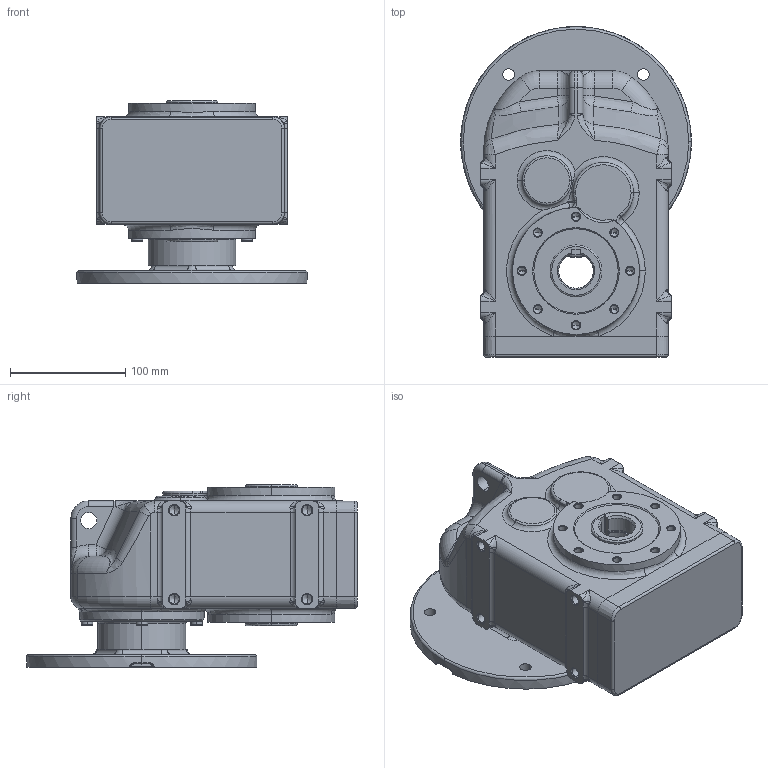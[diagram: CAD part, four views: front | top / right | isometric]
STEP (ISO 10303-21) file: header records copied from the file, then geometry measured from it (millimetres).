
FILE_DESCRIPTION (( 'STEP AP214' ), '1' );
FILE_NAME ('tnc13-f165-ap80.STEP', '2009-09-25T08:12:00', ( '' ), ( '' ), 'SwSTEP 2.0', 'SolidWorks 2003240', '' );
FILE_SCHEMA (( 'AUTOMOTIVE_DESIGN' ));
Length unit declared in the file: millimetre
Products named in the file (4): pøíruba d55 MRT60a_pøíruba 130-165-200; D6912_Šroub DIN 6912 - M6x20; Skøíò TNC1_Skøíò TNC13 AP80; tnc13-f165-ap80
Assembly tree (8 placements, depth 2):
  tnc13-f165-ap80
    D6912_Šroub DIN 6912 - M6x20  x6
    pøíruba d55 MRT60a_pøíruba 130-165-200
    Skøíò TNC1_Skøíò TNC13 AP80
Bounding box: 199.74 x 286.18 x 158 mm (x, y, z)
Volume: 3844280.7 mm3; surface area: 267667.3 mm2
Topology: 8 solids, 8 shells, 1138 faces, 2629 edges, 1474 vertices
Faces by surface type: cylinder 279, torus 264, cone 253, plane 183, bspline 154, sphere 5
Entity records: 133917 total; most frequent: CARTESIAN_POINT 111560, DIRECTION 4753, ORIENTED_EDGE 4430, EDGE_CURVE 2215, AXIS2_PLACEMENT_3D 2081, VERTEX_POINT 1319, CIRCLE 1271, EDGE_LOOP 1030
